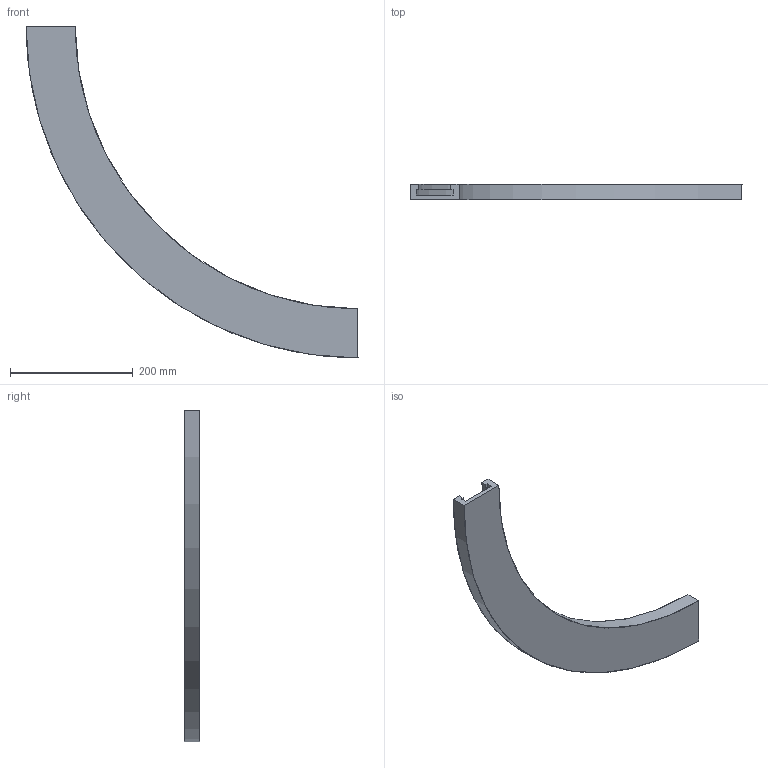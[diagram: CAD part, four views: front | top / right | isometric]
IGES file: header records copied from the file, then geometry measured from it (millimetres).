
Start section: SolidWorks IGES file using analytic representation for surfaces
Global section: file name: C:\Documents and Settings\URETIM3\Desktop\yeni katalog tolgay düzenli\E kataloðu\OMURGALI(KARDENÝK) BANT DÖNÜÞ TAKIMI\225 500 082.IGS; native system: SolidWorks 2006 by SolidWorks Corporation; preprocessor: SolidWorks 2006 by SolidWorks Corporation; author: URETIM3; date: 060912.164636; units: millimetre
Bounding box: 540 x 25 x 540 mm (x, y, z)
Surface area: 207758.4 mm2 (no closed solid volume)
Topology: 0 solids, 0 shells, 14 faces, 252 edges, 252 vertices
Faces by surface type: bspline 8, revolution 6
